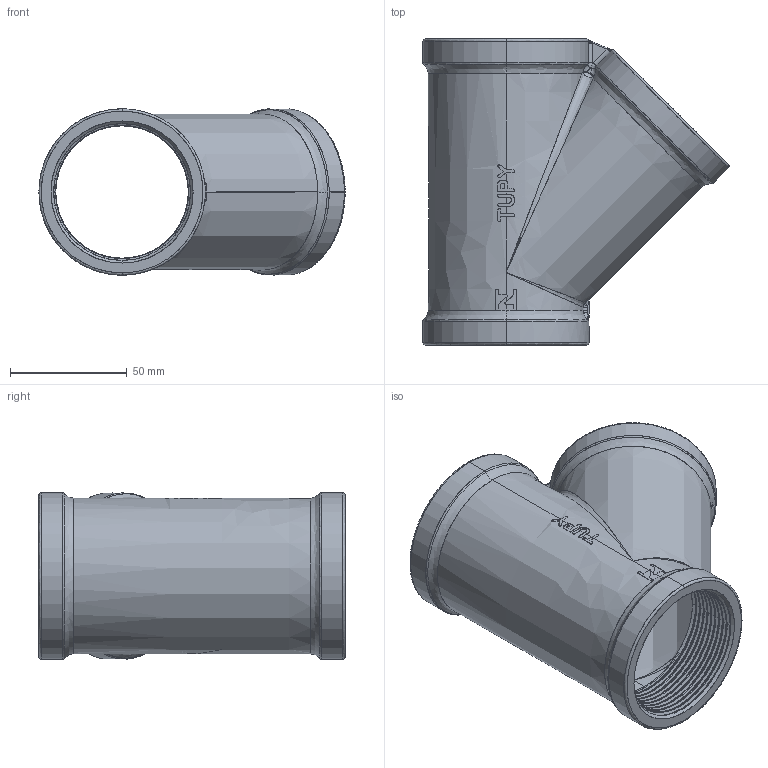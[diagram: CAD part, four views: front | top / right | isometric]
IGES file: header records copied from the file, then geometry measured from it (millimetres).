
Start section: SolidWorks IGES file using analytic representation for surfaces
Global section: file name: C:\Users\Joel Rosa\Desktop\Tubulação\12-54-XXX\12-54-010.IGS; native system: SolidWorks 2011; preprocessor: SolidWorks 2011; author: Joel Rosa; date: 121213.201634; units: millimetre
Bounding box: 131.07 x 131 x 71.2 mm (x, y, z)
Surface area: 81288.3 mm2 (no closed solid volume)
Topology: 0 solids, 0 shells, 517 faces, 4262 edges, 4247 vertices
Faces by surface type: bspline 345, revolution 172
